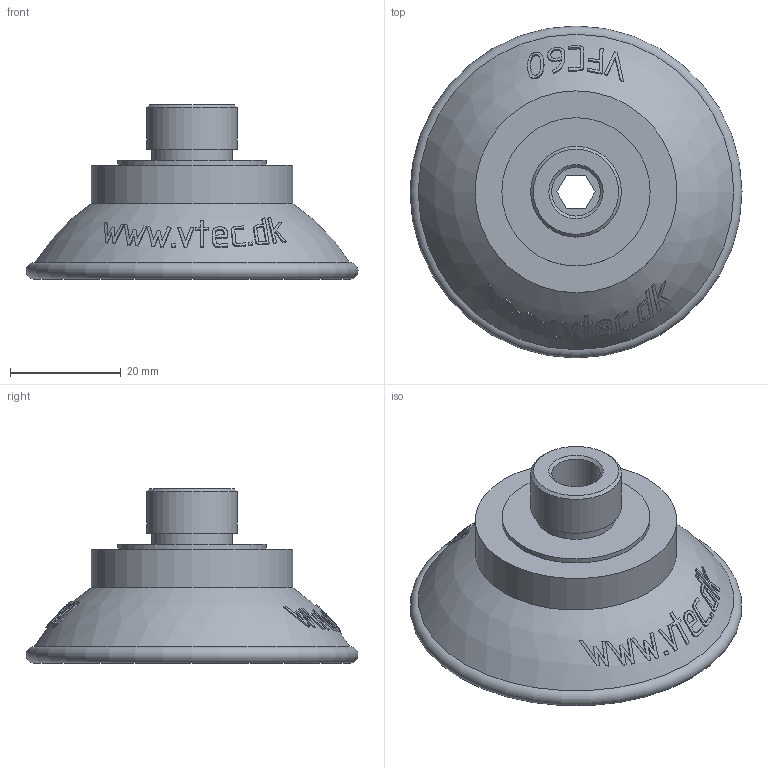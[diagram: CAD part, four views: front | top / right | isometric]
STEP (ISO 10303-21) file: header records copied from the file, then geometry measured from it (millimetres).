
FILE_DESCRIPTION( ( 'STEP AP203' ), '1' );
FILE_NAME( 'C:/Documents and Settings/Owner/官帕 拳搁/3D/Vacuum Pad/VFC series/VFC60-1838MF.stp', '2006-04-25T05:10:41', ( ' ' ), ( ' ' ), 'XStep 1.0', ' ', ' ' );
FILE_SCHEMA( ( 'CONFIG_CONTROL_DESIGN) ( )' ) );
Length unit declared in the file: metre
Products named in the file (1): 1
Bounding box: 59.99 x 59.99 x 31.5 mm (x, y, z)
Volume: 19625.1 mm3; surface area: 10072.7 mm2
Topology: 1 solids, 1 shells, 241 faces, 589 edges, 391 vertices
Faces by surface type: bspline 145, plane 48, cylinder 23, sphere 22, cone 2, torus 1
Full cylindrical faces by diameter (mm): 8.8 x1, 14.5 x1, 16.4 x1, 26.8 x1, 36.5 x1
Entity records: 13687 total; most frequent: CARTESIAN_POINT 9056, ORIENTED_EDGE 1148, EDGE_CURVE 574, DIRECTION 503, VERTEX_POINT 389, B_SPLINE_CURVE_WITH_KNOTS 334, EDGE_LOOP 297, FACE_OUTER_BOUND 251
